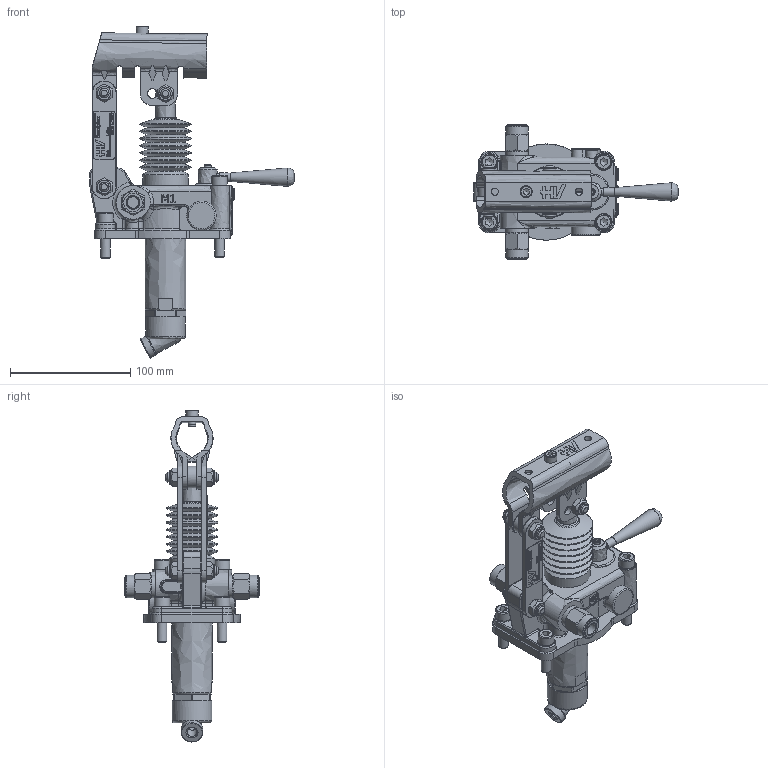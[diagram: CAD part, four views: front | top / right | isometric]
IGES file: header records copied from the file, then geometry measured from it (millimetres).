
Global section: file name: No Iges File Name specified; native system: Autodesk Inventor 2013; preprocessor: AutoDesk Inventor Iges Exporter R2013; author: christian.scardovi; date: 20240307.145819; units: millimetre
Bounding box: 170 x 112 x 276.08 mm (x, y, z)
Volume: 460229.4 mm3; surface area: 130207.6 mm2
Topology: 3 solids, 3 shells, 1686 faces, 4318 edges, 2738 vertices
Faces by surface type: bspline 1686
